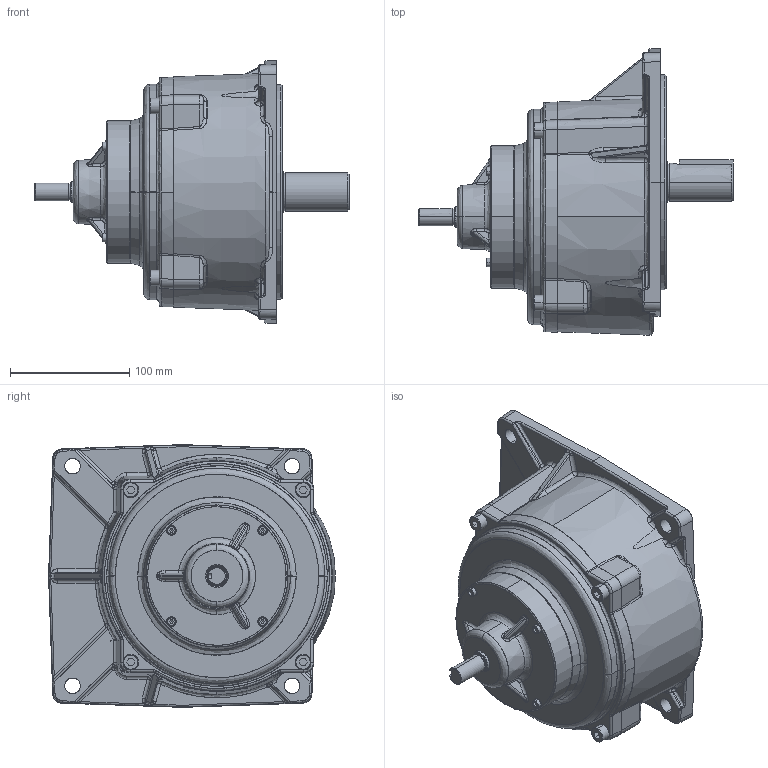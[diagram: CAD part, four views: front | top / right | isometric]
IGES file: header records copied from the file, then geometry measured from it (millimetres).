
Start section: SolidWorks IGES file using analytic representation for surfaces
Bounding box: 263 x 240.19 x 220 mm (x, y, z)
Surface area: 299675.2 mm2 (no closed solid volume)
Topology: 0 solids, 0 shells, 710 faces, 8958 edges, 8943 vertices
Faces by surface type: bspline 440, revolution 270
